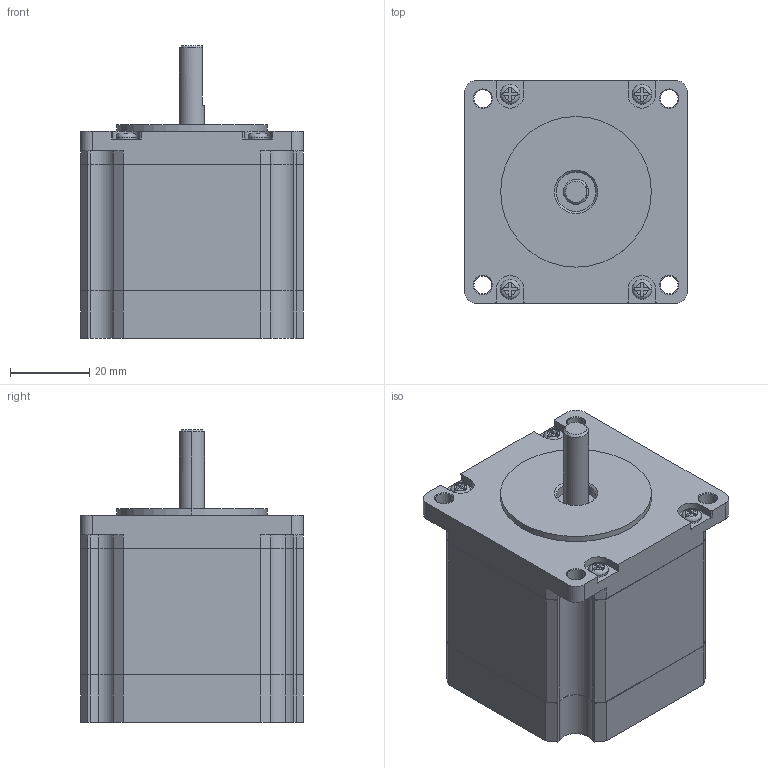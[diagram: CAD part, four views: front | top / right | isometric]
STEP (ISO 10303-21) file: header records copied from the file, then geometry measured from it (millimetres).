
FILE_DESCRIPTION (( 'STEP AP214' ), '1' );
FILE_NAME ('TS3653N2.STEP', '2011-09-15T08:51:59', ( '' ), ( '' ), 'SwSTEP 2.0', 'SolidWorks 2010', '' );
FILE_SCHEMA (( 'AUTOMOTIVE_DESIGN' ));
Length unit declared in the file: millimetre
Products named in the file (1): TS3653N2
Bounding box: 56.4 x 56.4 x 74 mm (x, y, z)
Volume: 152925.2 mm3; surface area: 18816.4 mm2
Topology: 1 solids, 1 shells, 246 faces, 669 edges, 435 vertices
Faces by surface type: plane 138, cylinder 78, cone 22, torus 8
Entity records: 8191 total; most frequent: CARTESIAN_POINT 1517, ORIENTED_EDGE 1338, DIRECTION 1337, EDGE_CURVE 669, AXIS2_PLACEMENT_3D 455, VERTEX_POINT 435, VECTOR 427, LINE 427
